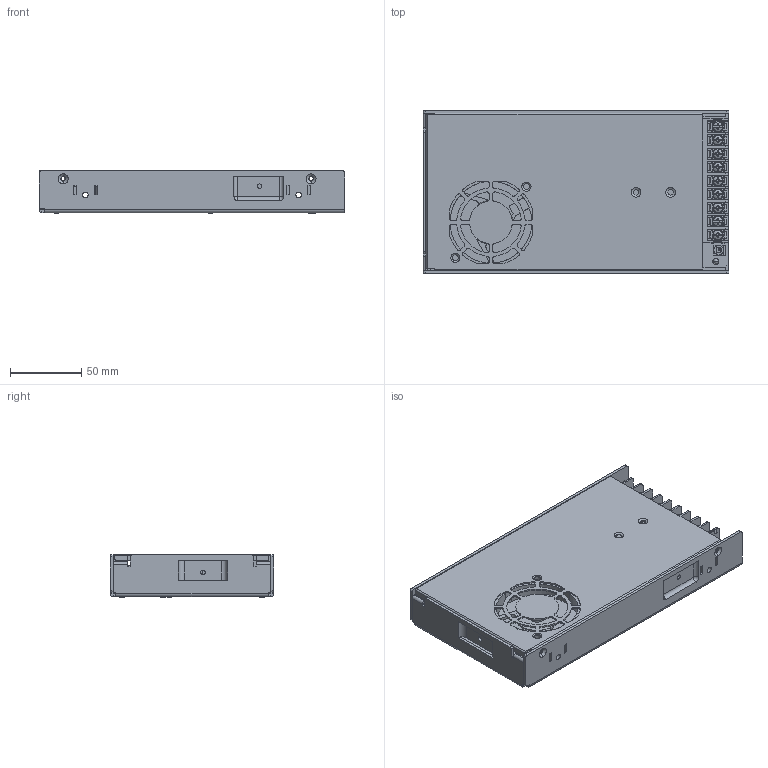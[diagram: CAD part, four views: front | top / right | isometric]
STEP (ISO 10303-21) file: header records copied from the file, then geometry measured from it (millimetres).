
FILE_DESCRIPTION((''),'2;1');
FILE_NAME('CASE_ASM','2014-08-06T',('ERIC.YP.CHEN'),(''),'PRO/ENGINEER BY PARAMETRIC TECHNOLOGY CORPORATION, 2010280','PRO/ENGINEER BY PARAMETRIC TECHNOLOGY CORPORATION, 2010280','');
FILE_SCHEMA(('CONFIG_CONTROL_DESIGN'));
Products named in the file (15): CHASSIS; CHASSIS-STANDOFF; CHASSIS-STANDOFF-1; COVER-00; CHASSIS_ASM; INSULATOR; PWB_2_25_2013; T44-ES1109A301-20121225; VR1_; LEG1_; VR_LEG__ASM; 3105325300-L8; FAN; LED_HOLDER; CASE_ASM
Assembly tree (23 placements, depth 3):
  CASE_ASM
    CHASSIS_ASM
      CHASSIS
      CHASSIS-STANDOFF  x2
      CHASSIS-STANDOFF-1  x3
      COVER-00
    INSULATOR
    PWB_2_25_2013
    T44-ES1109A301-20121225
    VR_LEG__ASM
      VR1_
      LEG1_  x3
    3105325300-L8  x5
    FAN
    LED_HOLDER
Bounding box: 215 x 115 x 30.9 mm (x, y, z)
Volume: 163774.1 mm3; surface area: 248022.9 mm2
Topology: 24 solids, 24 shells, 3016 faces, 8236 edges, 5298 vertices
Faces by surface type: plane 1847, cylinder 814, bspline 140, torus 108, cone 79, sphere 28
Entity records: 93625 total; most frequent: CARTESIAN_POINT 27879, ORIENTED_EDGE 14316, DIRECTION 12772, EDGE_CURVE 7158, VECTOR 4672, LINE 4672, VERTEX_POINT 4638, AXIS2_PLACEMENT_3D 4050
